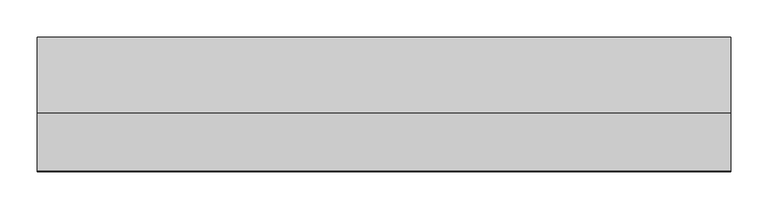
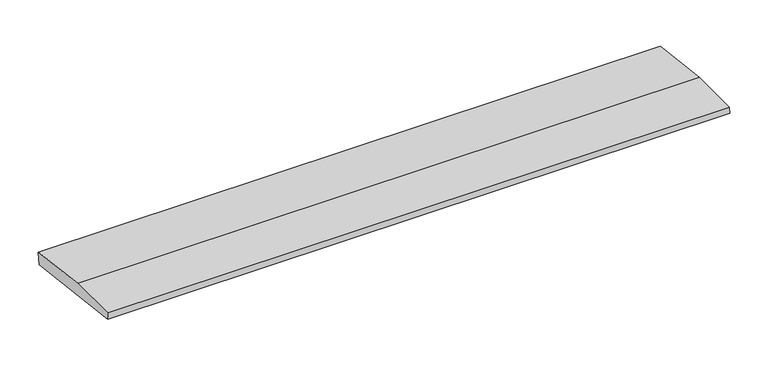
"""IFC4 building model written with IfcOpenShell, lengths in millimetres: beam geometry, weatherboad : weatherboad."""

from ifc_helpers import new_model, si_unit, frame, origin, place, context, project, spatial, polyline, outline, extrude, source, transform, mapped, element, save


def beam_8964b9ef(model_context):
    return source(origin(), model_context, "Body", "SweptSolid", [
        extrude(outline(polyline([(0.0, -9.143159), (1.1226388, 0.0), (79.0749747, 0.0), (180.9387048, -12.5072934), (178.6231873, -31.3656703), (0.0, -9.143159)])), frame((-466.7672895, 0.0, 0.0), z_axis=(1.0, 0.0, 0.0), x_axis=(0.0, 1.0, 0.0)), (0.0, 0.0, 1.0), 933.534579),
    ])


if __name__ == "__main__":
    model = new_model("IFC4")
    model_context = context("Model", 3, world=origin())
    ifc_project = project(units=[si_unit("LENGTHUNIT", "METRE", prefix="MILLI")], contexts=[model_context])
    site = spatial("IfcSite", under=ifc_project)
    building = spatial("IfcBuilding", under=site)
    placement = place(None, origin())
    beam_shape = beam_8964b9ef(model_context)
    element("IfcBeam", 1, ObjectType="weatherboad : weatherboad", at=placement, inside=building, context=model_context, shape_type="MappedRepresentation", body=[
        mapped(beam_shape, transform((0.0, 0.0, 0.0), x_axis=(1.0, 0.0, 0.0), y_axis=(0.0, 1.0, 0.0), z_axis=(0.0, 0.0, 1.0))),
    ])
    save(model, "model.ifc")
